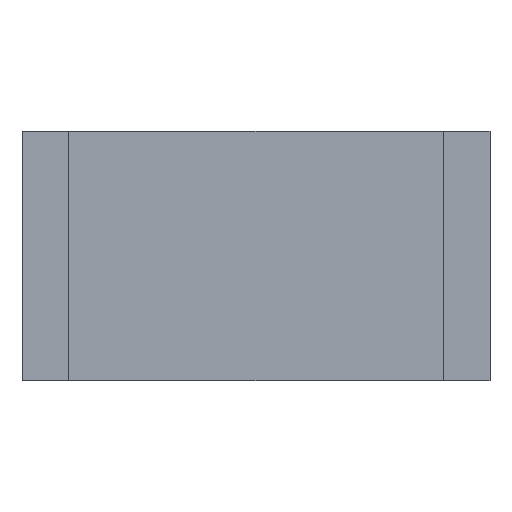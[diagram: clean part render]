
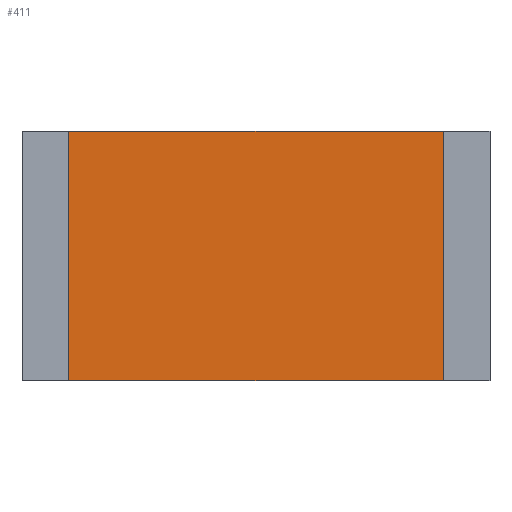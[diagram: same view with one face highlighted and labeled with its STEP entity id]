
A CAD part, top view. The second image highlights one B-rep face of the part: STEP entity #411.
In plain terms, the highlighted planar face has unit normal (0, 0, 1).
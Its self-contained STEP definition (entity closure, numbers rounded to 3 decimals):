
#411=ADVANCED_FACE('',(#810),#812,.T.);
#810=FACE_BOUND('',#811,.T.);
#811=EDGE_LOOP('',(#1097,#1098,#1099,#1100));
#812=PLANE('',#813);
#813=AXIS2_PLACEMENT_3D('',#814,#815,#816);
#814=CARTESIAN_POINT('',(0.,0.,0.35));
#815=DIRECTION('',(0.,0.,1.));
#816=DIRECTION('',(-1.,0.,0.));
#1097=ORIENTED_EDGE('',*,*,#1269,.T.);
#1098=ORIENTED_EDGE('',*,*,#1273,.T.);
#1099=ORIENTED_EDGE('',*,*,#1276,.T.);
#1100=ORIENTED_EDGE('',*,*,#1278,.T.);
#1269=EDGE_CURVE('',#1435,#1433,#1436,.T.);
#1273=EDGE_CURVE('',#1433,#1440,#1442,.T.);
#1276=EDGE_CURVE('',#1440,#1445,#1447,.T.);
#1278=EDGE_CURVE('',#1445,#1435,#1449,.T.);
#1433=VERTEX_POINT('',#1760);
#1435=VERTEX_POINT('',#1764);
#1436=LINE('',#1765,#1766);
#1440=VERTEX_POINT('',#1775);
#1442=LINE('',#1779,#1780);
#1445=VERTEX_POINT('',#1786);
#1447=LINE('',#1790,#1791);
#1449=LINE('',#1796,#1797);
#1760=CARTESIAN_POINT('',(-1.2,0.8,0.35));
#1764=CARTESIAN_POINT('',(1.2,0.8,0.35));
#1765=CARTESIAN_POINT('',(1.2,0.8,0.35));
#1766=VECTOR('',#1767,1.);
#1767=DIRECTION('',(-1.,0.,0.));
#1775=CARTESIAN_POINT('',(-1.2,-0.8,0.35));
#1779=CARTESIAN_POINT('',(-1.2,0.8,0.35));
#1780=VECTOR('',#1781,1.);
#1781=DIRECTION('',(0.,-1.,0.));
#1786=CARTESIAN_POINT('',(1.2,-0.8,0.35));
#1790=CARTESIAN_POINT('',(-1.2,-0.8,0.35));
#1791=VECTOR('',#1792,1.);
#1792=DIRECTION('',(1.,0.,0.));
#1796=CARTESIAN_POINT('',(1.2,-0.8,0.35));
#1797=VECTOR('',#1798,1.);
#1798=DIRECTION('',(0.,1.,0.));
